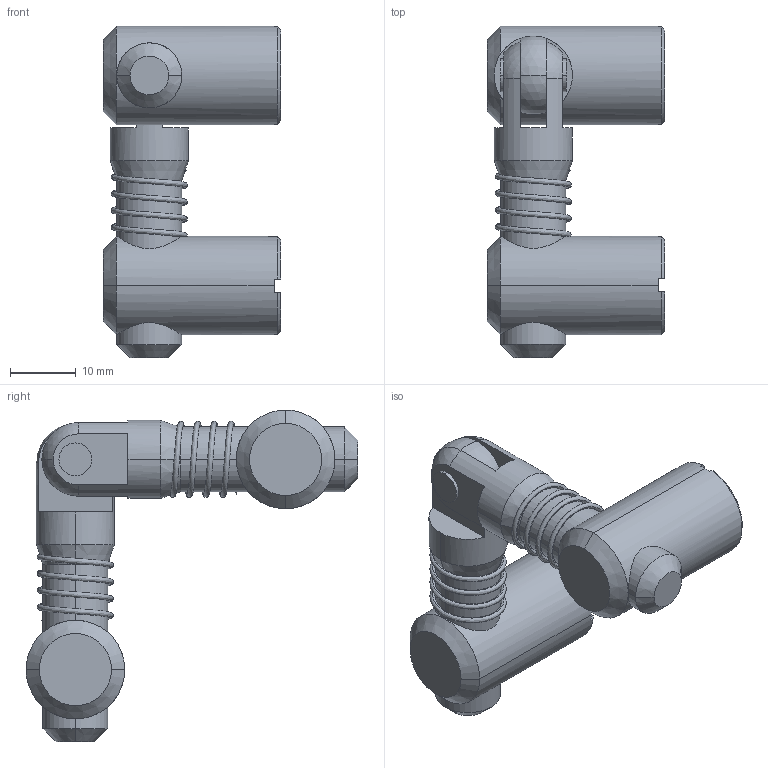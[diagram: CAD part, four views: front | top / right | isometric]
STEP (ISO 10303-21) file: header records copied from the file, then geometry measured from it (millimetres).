
FILE_DESCRIPTION (( 'STEP AP214' ), '1' );
FILE_NAME ('2.04.spmp.STEP', '2015-05-30T09:33:32', ( '' ), ( '' ), 'SwSTEP 2.0', 'SolidWorks 2015', '' );
FILE_SCHEMA (( 'AUTOMOTIVE_DESIGN' ));
Length unit declared in the file: millimetre
Products named in the file (1): 2.04.spmp
Bounding box: 27 x 50.5 x 50.5 mm (x, y, z)
Surface area: 8499.7 mm2 (no closed solid volume)
Topology: 0 solids, 9 shells, 117 faces, 315 edges, 205 vertices
Faces by surface type: plane 63, cone 24, cylinder 20, sphere 6, bspline 4
Entity records: 7505 total; most frequent: CARTESIAN_POINT 4581, DIRECTION 593, ORIENTED_EDGE 580, EDGE_CURVE 307, AXIS2_PLACEMENT_3D 222, VERTEX_POINT 203, VECTOR 149, LINE 149
